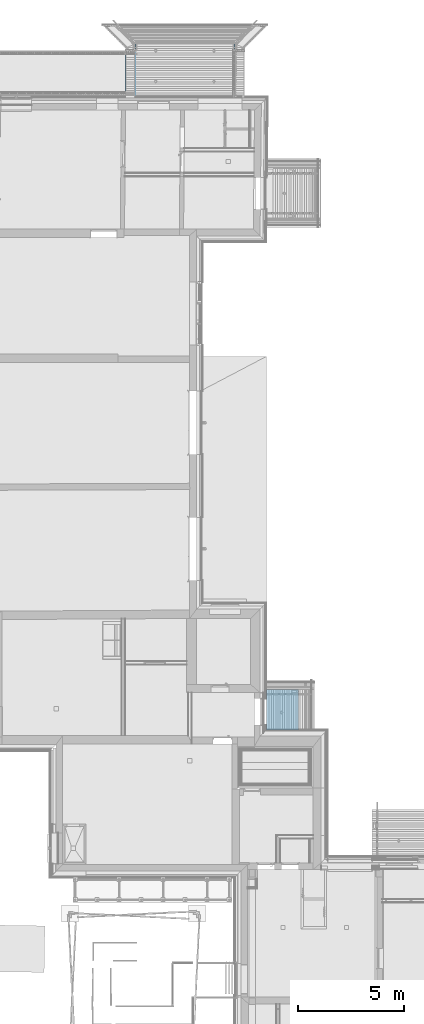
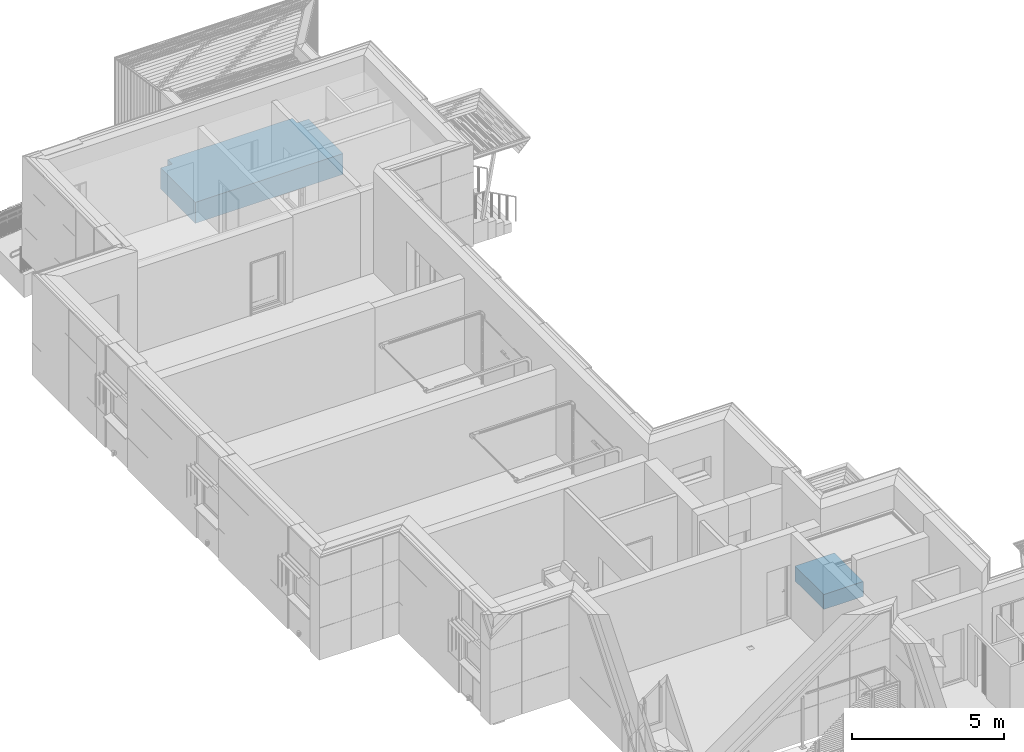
# One storey, part 93 of 418: 2 stairs.
"""IFC2X3 building model written with IfcOpenShell, lengths in millimetres."""

from ifc_helpers import new_model, entity, si_unit, converted_unit, derived_unit, money_unit, direction, frame, origin_with_axes, place, context, subcontext, project, spatial, polyline, outline, extrude, boolean, faceted_brep, material, element, save


model = new_model("IFC2X3")

# Units and contexts
model_context = context("Model", 3, precision=0.01, world=origin_with_axes(), true_north=direction((0.0, 1.0)))
body_context = subcontext(model_context, "Body", "Model", "MODEL_VIEW")
ifc_project = project(units=[si_unit("LENGTHUNIT", "METRE", prefix="MILLI"), si_unit("AREAUNIT", "SQUARE_METRE"), si_unit("VOLUMEUNIT", "CUBIC_METRE"), converted_unit("PLANEANGLEUNIT", "DEGREE", entity("IfcPlaneAngleMeasure", 0.0174532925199), si_unit("PLANEANGLEUNIT", "RADIAN"), dimensions=[0, 0, 0, 0, 0, 0, 0]), si_unit("SOLIDANGLEUNIT", "STERADIAN"), money_unit("EUR"), converted_unit("TIMEUNIT", "Year", entity("IfcTimeMeasure", 31556926.0), si_unit("TIMEUNIT", "SECOND"), dimensions=[0, 0, 1, 0, 0, 0, 0]), si_unit("MASSUNIT", "GRAM", prefix="KILO"), si_unit("THERMODYNAMICTEMPERATUREUNIT", "DEGREE_CELSIUS"), si_unit("LUMINOUSINTENSITYUNIT", "LUMEN"), si_unit("ENERGYUNIT", "JOULE", prefix="MEGA"), derived_unit("THERMALCONDUCTANCEUNIT", [(si_unit("POWERUNIT", "WATT"), 1), (si_unit("LENGTHUNIT", "METRE"), -1), (si_unit("THERMODYNAMICTEMPERATUREUNIT", "KELVIN"), -1)]), derived_unit("SPECIFICHEATCAPACITYUNIT", [(si_unit("ENERGYUNIT", "JOULE"), 1), (si_unit("MASSUNIT", "GRAM", prefix="KILO"), -1), (si_unit("THERMODYNAMICTEMPERATUREUNIT", "KELVIN"), -1)]), derived_unit("MASSDENSITYUNIT", [(si_unit("MASSUNIT", "GRAM", prefix="KILO"), 1), (si_unit("VOLUMEUNIT", "CUBIC_METRE"), -1)])], contexts=[model_context])

# Site, building, storey
site_placement = place(None, origin_with_axes())
site = spatial("IfcSite", under=ifc_project, at=site_placement, Name="Paldiski mnt 245/1, Tallinn, Harjumaa", CompositionType="COMPLEX")
building_placement = place(site_placement, origin_with_axes())
building = spatial("IfcBuilding", under=site, at=building_placement, Name="RKAS Hoone üldnimetus (kasutust iseloomustav) -> IFC Project Manager -> SOLIBRI", CompositionType="ELEMENT")
storey_placement = place(building_placement, origin_with_axes())
storey = spatial("IfcBuildingStorey", under=building, at=storey_placement, Name="Esimene korrus", CompositionType="ELEMENT", Elevation=0.0)

# Stairs
ifc_material = material(Name="KON-06_Raudbetoon - Konstruktsioon")
stair_1_placement = place(storey_placement, frame((-46765.0, 6493.86357598, -20.0), z_axis=(0.0, 0.0, 1.0), x_axis=(1.0, 0.0, 0.0)))
element("IfcStair", 1, at=stair_1_placement, inside=storey, material=ifc_material, Name="Välistrepp", ShapeType="NOTDEFINED", context=body_context, shape_type="CSG", body=[
    boolean("DIFFERENCE", extrude(outline(polyline([(0.0, 0.0), (1507.47425299, 0.0), (1507.47425299, 1899.89132935), (0.0, 1899.89132935), (0.0, 0.0)])), frame((0.0, 0.0, -600.0), z_axis=(0.0, 0.0, 1.0), x_axis=(1.0, 0.0, 0.0)), (0.0, 0.0, 1.0), 600.0), faceted_brep([(454.999996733, 315.965102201, 0.0), (954.999996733, 315.965102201, 0.0), (954.999996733, 1315.9651022, 0.0), (454.999996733, 1315.9651022, 0.0), (454.999996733, 315.965102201, -60.0), (954.999996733, 315.965102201, -60.0), (954.999996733, 1315.9651022, -60.0), (454.999996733, 1315.9651022, -60.0), (700.188124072, 760.965102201, -60.0), (704.999996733, 760.965102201, -60.0), (709.811869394, 760.965102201, -60.0), (719.289419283, 762.636254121, -60.0), (728.332793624, 765.927759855, -60.0), (732.499996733, 768.333704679, -60.0), (736.667199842, 770.739647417, -60.0), (744.039422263, 776.925676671, -60.0), (750.225451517, 784.297899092, -60.0), (752.631394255, 788.465102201, -60.0), (755.037339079, 792.63230531, -60.0), (758.328844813, 801.675679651, -60.0), (759.999996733, 811.15322954, -60.0), (759.999996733, 815.965102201, -60.0), (759.999996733, 820.776974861, -60.0), (758.328844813, 830.25452475, -60.0), (755.037339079, 839.297899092, -60.0), (752.631394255, 843.465102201, -60.0), (750.225451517, 847.63230531, -60.0), (744.039422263, 855.004527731, -60.0), (736.667199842, 861.190556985, -60.0), (732.499996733, 863.596499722, -60.0), (728.332793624, 866.002444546, -60.0), (719.289419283, 869.29395028, -60.0), (709.811869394, 870.965102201, -60.0), (704.999996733, 870.965102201, -60.0), (700.188124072, 870.965102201, -60.0), (690.710574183, 869.29395028, -60.0), (681.667199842, 866.002444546, -60.0), (677.499996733, 863.596499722, -60.0), (673.332793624, 861.190556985, -60.0), (665.960571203, 855.004527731, -60.0), (659.774541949, 847.63230531, -60.0), (657.368599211, 843.465102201, -60.0), (654.962654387, 839.297899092, -60.0), (651.671148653, 830.25452475, -60.0), (649.999996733, 820.776974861, -60.0), (649.999996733, 815.965102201, -60.0), (649.999996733, 811.15322954, -60.0), (651.671148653, 801.675679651, -60.0), (654.962654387, 792.63230531, -60.0), (657.368599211, 788.465102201, -60.0), (659.774541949, 784.297899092, -60.0), (665.960571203, 776.925676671, -60.0), (673.332793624, 770.739647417, -60.0), (677.499996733, 768.333704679, -60.0), (681.667199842, 765.927759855, -60.0), (690.710574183, 762.636254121, -60.0), (700.188124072, 760.965102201, -20.0), (704.999996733, 760.965102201, -20.0), (704.999996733, 760.965102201, -20.0), (709.811869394, 760.965102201, -20.0), (719.289419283, 762.636254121, -20.0), (728.332793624, 765.927759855, -20.0), (732.499996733, 768.333704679, -20.0), (732.499996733, 768.333704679, -20.0), (736.667199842, 770.739647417, -20.0), (744.039422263, 776.925676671, -20.0), (750.225451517, 784.297899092, -20.0), (752.631394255, 788.465102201, -20.0), (752.631394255, 788.465102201, -20.0), (755.037339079, 792.63230531, -20.0), (758.328844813, 801.675679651, -20.0), (759.999996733, 811.15322954, -20.0), (759.999996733, 815.965102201, -20.0), (759.999996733, 815.965102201, -20.0), (759.999996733, 820.776974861, -20.0), (758.328844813, 830.25452475, -20.0), (755.037339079, 839.297899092, -20.0), (752.631394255, 843.465102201, -20.0), (752.631394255, 843.465102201, -20.0), (750.225451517, 847.63230531, -20.0), (744.039422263, 855.004527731, -20.0), (736.667199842, 861.190556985, -20.0), (732.499996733, 863.596499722, -20.0), (732.499996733, 863.596499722, -20.0), (728.332793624, 866.002444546, -20.0), (719.289419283, 869.29395028, -20.0), (709.811869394, 870.965102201, -20.0), (704.999996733, 870.965102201, -20.0), (704.999996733, 870.965102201, -20.0), (700.188124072, 870.965102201, -20.0), (690.710574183, 869.29395028, -20.0), (681.667199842, 866.002444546, -20.0), (677.499996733, 863.596499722, -20.0), (677.499996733, 863.596499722, -20.0), (673.332793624, 861.190556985, -20.0), (665.960571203, 855.004527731, -20.0), (659.774541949, 847.63230531, -20.0), (657.368599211, 843.465102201, -20.0), (657.368599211, 843.465102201, -20.0), (654.962654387, 839.297899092, -20.0), (651.671148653, 830.25452475, -20.0), (649.999996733, 820.776974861, -20.0), (649.999996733, 815.965102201, -20.0), (649.999996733, 815.965102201, -20.0), (649.999996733, 811.15322954, -20.0), (651.671148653, 801.675679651, -20.0), (654.962654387, 792.63230531, -20.0), (657.368599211, 788.465102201, -20.0), (657.368599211, 788.465102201, -20.0), (659.774541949, 784.297899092, -20.0), (665.960571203, 776.925676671, -20.0), (673.332793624, 770.739647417, -20.0), (677.499996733, 768.333704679, -20.0), (677.499996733, 768.333704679, -20.0), (681.667199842, 765.927759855, -20.0), (690.710574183, 762.636254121, -20.0), (690.76494887, 762.83918101, -20.0), (690.76494887, 762.83918101, -300.0), (704.999996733, 760.965102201, -300.0), (719.235044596, 762.83918101, -20.0), (719.235044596, 762.83918101, -300.0), (732.499996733, 768.333704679, -300.0), (743.890870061, 777.074228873, -300.0), (743.890870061, 777.074228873, -20.0), (752.631394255, 788.465102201, -300.0), (758.125917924, 801.730054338, -300.0), (758.125917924, 801.730054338, -20.0), (759.999996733, 815.965102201, -300.0), (758.125917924, 830.200150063, -300.0), (758.125917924, 830.200150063, -20.0), (752.631394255, 843.465102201, -300.0), (743.890870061, 854.855975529, -300.0), (743.890870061, 854.855975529, -20.0), (732.499996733, 863.596499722, -300.0), (719.235044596, 869.091023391, -300.0), (719.235044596, 869.091023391, -20.0), (704.999996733, 870.965102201, -300.0), (690.76494887, 869.091023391, -300.0), (690.76494887, 869.091023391, -20.0), (677.499996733, 863.596499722, -300.0), (666.109123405, 854.855975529, -300.0), (666.109123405, 854.855975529, -20.0), (657.368599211, 843.465102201, -300.0), (651.874075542, 830.200150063, -300.0), (651.874075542, 830.200150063, -20.0), (649.999996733, 815.965102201, -300.0), (651.874075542, 801.730054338, -300.0), (651.874075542, 801.730054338, -20.0), (657.368599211, 788.465102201, -300.0), (666.109123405, 777.074228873, -300.0), (666.109123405, 777.074228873, -20.0), (677.499996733, 768.333704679, -300.0), (692.059044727, 767.66881155, -300.0), (704.999996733, 765.965102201, -300.0), (717.940948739, 767.66881155, -300.0), (729.999996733, 772.663831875, -300.0), (740.355335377, 780.609763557, -300.0), (748.301267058, 790.965102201, -300.0), (753.296287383, 803.024150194, -300.0), (754.999996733, 815.965102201, -300.0), (753.296287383, 828.906054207, -300.0), (748.301267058, 840.965102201, -300.0), (740.355335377, 851.320440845, -300.0), (729.999996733, 859.266372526, -300.0), (717.940948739, 864.261392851, -300.0), (704.999996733, 865.965102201, -300.0), (692.059044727, 864.261392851, -300.0), (679.999996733, 859.266372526, -300.0), (669.644658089, 851.320440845, -300.0), (661.698726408, 840.965102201, -300.0), (656.703706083, 828.906054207, -300.0), (654.999996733, 815.965102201, -300.0), (656.703706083, 803.024150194, -300.0), (661.698726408, 790.965102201, -300.0), (669.644658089, 780.609763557, -300.0), (679.999996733, 772.663831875, -300.0), (692.059044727, 767.66881155, -20.0), (704.999996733, 765.965102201, -20.0), (717.940948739, 767.66881155, -20.0), (729.999996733, 772.663831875, -20.0), (740.355335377, 780.609763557, -20.0), (748.301267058, 790.965102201, -20.0), (753.296287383, 803.024150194, -20.0), (754.999996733, 815.965102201, -20.0), (753.296287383, 828.906054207, -20.0), (748.301267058, 840.965102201, -20.0), (740.355335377, 851.320440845, -20.0), (729.999996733, 859.266372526, -20.0), (717.940948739, 864.261392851, -20.0), (704.999996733, 865.965102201, -20.0), (692.059044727, 864.261392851, -20.0), (679.999996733, 859.266372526, -20.0), (669.644658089, 851.320440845, -20.0), (661.698726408, 840.965102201, -20.0), (656.703706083, 828.906054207, -20.0), (654.999996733, 815.965102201, -20.0), (656.703706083, 803.024150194, -20.0), (661.698726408, 790.965102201, -20.0), (669.644658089, 780.609763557, -20.0), (679.999996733, 772.663831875, -20.0)], [[[0, 1, 2, 3]], [[1, 0, 4, 5]], [[2, 1, 5, 6]], [[3, 2, 6, 7]], [[0, 3, 7, 4]], [[5, 4, 7, 6], [8, 9, 10, 11, 12, 13, 14, 15, 16, 17, 18, 19, 20, 21, 22, 23, 24, 25, 26, 27, 28, 29, 30, 31, 32, 33, 34, 35, 36, 37, 38, 39, 40, 41, 42, 43, 44, 45, 46, 47, 48, 49, 50, 51, 52, 53, 54, 55]], [[9, 8, 56, 57]], [[10, 9, 58, 59]], [[11, 10, 59, 60]], [[12, 11, 60, 61]], [[13, 12, 61, 62]], [[14, 13, 63, 64]], [[15, 14, 64, 65]], [[16, 15, 65, 66]], [[17, 16, 66, 67]], [[18, 17, 68, 69]], [[19, 18, 69, 70]], [[20, 19, 70, 71]], [[21, 20, 71, 72]], [[22, 21, 73, 74]], [[23, 22, 74, 75]], [[24, 23, 75, 76]], [[25, 24, 76, 77]], [[26, 25, 78, 79]], [[27, 26, 79, 80]], [[28, 27, 80, 81]], [[29, 28, 81, 82]], [[30, 29, 83, 84]], [[31, 30, 84, 85]], [[32, 31, 85, 86]], [[33, 32, 86, 87]], [[34, 33, 88, 89]], [[35, 34, 89, 90]], [[36, 35, 90, 91]], [[37, 36, 91, 92]], [[38, 37, 93, 94]], [[39, 38, 94, 95]], [[40, 39, 95, 96]], [[41, 40, 96, 97]], [[42, 41, 98, 99]], [[43, 42, 99, 100]], [[44, 43, 100, 101]], [[45, 44, 101, 102]], [[46, 45, 103, 104]], [[47, 46, 104, 105]], [[48, 47, 105, 106]], [[49, 48, 106, 107]], [[50, 49, 108, 109]], [[51, 50, 109, 110]], [[52, 51, 110, 111]], [[53, 52, 111, 112]], [[54, 53, 113, 114]], [[55, 54, 114, 115]], [[8, 55, 115, 56]], [[57, 56, 115, 114, 113, 116]], [[57, 116, 117, 118, 9]], [[119, 58, 9, 118, 120]], [[60, 59, 58, 119, 62, 61]], [[62, 119, 120, 121, 13]], [[121, 122, 123, 63, 13]], [[63, 123, 67, 66, 65, 64]], [[122, 124, 17, 67, 123]], [[124, 125, 126, 68, 17]], [[69, 68, 126, 72, 71, 70]], [[125, 127, 21, 72, 126]], [[127, 128, 129, 73, 21]], [[73, 129, 77, 76, 75, 74]], [[128, 130, 25, 77, 129]], [[130, 131, 132, 78, 25]], [[78, 132, 82, 81, 80, 79]], [[131, 133, 29, 82, 132]], [[133, 134, 135, 83, 29]], [[83, 135, 87, 86, 85, 84]], [[134, 136, 33, 87, 135]], [[136, 137, 138, 88, 33]], [[138, 92, 91, 90, 89, 88]], [[137, 139, 37, 92, 138]], [[139, 140, 141, 93, 37]], [[97, 96, 95, 94, 93, 141]], [[140, 142, 41, 97, 141]], [[142, 143, 144, 98, 41]], [[102, 101, 100, 99, 98, 144]], [[143, 145, 45, 102, 144]], [[145, 146, 147, 103, 45]], [[147, 107, 106, 105, 104, 103]], [[146, 148, 49, 107, 147]], [[148, 149, 150, 108, 49]], [[112, 111, 110, 109, 108, 150]], [[149, 151, 53, 112, 150]], [[116, 113, 53, 151, 117]], [[120, 118, 117, 151, 149, 148, 146, 145, 143, 142, 140, 139, 137, 136, 134, 133, 131, 130, 128, 127, 125, 124, 122, 121], [152, 153, 154, 155, 156, 157, 158, 159, 160, 161, 162, 163, 164, 165, 166, 167, 168, 169, 170, 171, 172, 173, 174, 175]], [[153, 152, 176, 177]], [[154, 153, 177, 178]], [[155, 154, 178, 179]], [[156, 155, 179, 180]], [[157, 156, 180, 181]], [[158, 157, 181, 182]], [[159, 158, 182, 183]], [[160, 159, 183, 184]], [[161, 160, 184, 185]], [[162, 161, 185, 186]], [[163, 162, 186, 187]], [[164, 163, 187, 188]], [[165, 164, 188, 189]], [[166, 165, 189, 190]], [[167, 166, 190, 191]], [[168, 167, 191, 192]], [[169, 168, 192, 193]], [[170, 169, 193, 194]], [[171, 170, 194, 195]], [[172, 171, 195, 196]], [[173, 172, 196, 197]], [[174, 173, 197, 198]], [[175, 174, 198, 199]], [[152, 175, 199, 176]], [[177, 176, 199, 198, 197, 196, 195, 194, 193, 192, 191, 190, 189, 188, 187, 186, 185, 184, 183, 182, 181, 180, 179, 178]]])),
])
stair_2_placement = place(storey_placement, frame((-47803.2841289, 36300.8635332, -20.0), z_axis=(0.0, 0.0, 1.0), x_axis=(1.0, 0.0, 0.0)))
element("IfcStair", 2, at=stair_2_placement, inside=storey, material=ifc_material, Name="Välistrepp", ShapeType="NOTDEFINED", context=body_context, shape_type="CSG", body=[
    boolean("DIFFERENCE", extrude(outline(polyline([(0.0, 0.0), (-1.70765090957e-05, 2283.81928156), (-441.99993081, 2283.81928204), (-442.000958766, 2587.76959752), (-5174.64561329, 2587.7696692), (-5174.64561784, 2287.76967855), (-5616.48519029, 2287.76968122), (-5616.48515986, 7.48256923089e-05), (0.0, 0.0)])), frame((0.0, 0.0, -840.0), z_axis=(0.0, 0.0, 1.0), x_axis=(1.0, 0.0, 0.0)), (0.0, 0.0, 1.0), 840.0), faceted_brep([(-4695.83678079, 568.965191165, 0.0), (-3695.83678079, 568.965191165, 0.0), (-3695.83678079, 1068.96519116, 0.0), (-4695.83678079, 1068.96519116, 0.0), (-4695.83678079, 568.965191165, -60.0), (-3695.83678079, 568.965191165, -60.0), (-3695.83678079, 1068.96519116, -60.0), (-4695.83678079, 1068.96519116, -60.0), (-4250.83678079, 823.777063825, -60.0), (-4250.83678079, 818.965191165, -60.0), (-4250.83678079, 814.153318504, -60.0), (-4249.16562887, 804.675768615, -60.0), (-4245.87412313, 795.632394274, -60.0), (-4243.46817831, 791.465191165, -60.0), (-4241.06223557, 787.297988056, -60.0), (-4234.87620632, 779.925765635, -60.0), (-4227.5039839, 773.739736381, -60.0), (-4223.33678079, 771.333793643, -60.0), (-4219.16957768, 768.927848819, -60.0), (-4210.12620334, 765.636343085, -60.0), (-4200.64865345, 763.965191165, -60.0), (-4195.83678079, 763.965191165, -60.0), (-4191.02490813, 763.965191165, -60.0), (-4181.54735824, 765.636343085, -60.0), (-4172.5039839, 768.927848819, -60.0), (-4168.33678079, 771.333793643, -60.0), (-4164.16957768, 773.739736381, -60.0), (-4156.79735526, 779.925765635, -60.0), (-4150.611326, 787.297988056, -60.0), (-4148.20538327, 791.465191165, -60.0), (-4145.79943844, 795.632394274, -60.0), (-4142.50793271, 804.675768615, -60.0), (-4140.83678079, 814.153318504, -60.0), (-4140.83678079, 818.965191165, -60.0), (-4140.83678079, 823.777063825, -60.0), (-4142.50793271, 833.254613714, -60.0), (-4145.79943844, 842.297988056, -60.0), (-4148.20538327, 846.465191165, -60.0), (-4150.611326, 850.632394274, -60.0), (-4156.79735526, 858.004616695, -60.0), (-4164.16957768, 864.190645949, -60.0), (-4168.33678079, 866.596588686, -60.0), (-4172.5039839, 869.00253351, -60.0), (-4181.54735824, 872.294039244, -60.0), (-4191.02490813, 873.965191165, -60.0), (-4195.83678079, 873.965191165, -60.0), (-4200.64865345, 873.965191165, -60.0), (-4210.12620334, 872.294039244, -60.0), (-4219.16957768, 869.00253351, -60.0), (-4223.33678079, 866.596588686, -60.0), (-4227.5039839, 864.190645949, -60.0), (-4234.87620632, 858.004616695, -60.0), (-4241.06223557, 850.632394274, -60.0), (-4243.46817831, 846.465191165, -60.0), (-4245.87412313, 842.297988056, -60.0), (-4249.16562887, 833.254613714, -60.0), (-4250.83678079, 823.777063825, -20.0), (-4250.83678079, 818.965191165, -20.0), (-4250.83678079, 818.965191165, -20.0), (-4250.83678079, 814.153318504, -20.0), (-4249.16562887, 804.675768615, -20.0), (-4245.87412313, 795.632394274, -20.0), (-4243.46817831, 791.465191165, -20.0), (-4243.46817831, 791.465191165, -20.0), (-4241.06223557, 787.297988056, -20.0), (-4234.87620632, 779.925765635, -20.0), (-4227.5039839, 773.739736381, -20.0), (-4223.33678079, 771.333793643, -20.0), (-4223.33678079, 771.333793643, -20.0), (-4219.16957768, 768.927848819, -20.0), (-4210.12620334, 765.636343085, -20.0), (-4200.64865345, 763.965191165, -20.0), (-4195.83678079, 763.965191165, -20.0), (-4195.83678079, 763.965191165, -20.0), (-4191.02490813, 763.965191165, -20.0), (-4181.54735824, 765.636343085, -20.0), (-4172.5039839, 768.927848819, -20.0), (-4168.33678079, 771.333793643, -20.0), (-4168.33678079, 771.333793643, -20.0), (-4164.16957768, 773.739736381, -20.0), (-4156.79735526, 779.925765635, -20.0), (-4150.611326, 787.297988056, -20.0), (-4148.20538327, 791.465191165, -20.0), (-4148.20538327, 791.465191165, -20.0), (-4145.79943844, 795.632394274, -20.0), (-4142.50793271, 804.675768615, -20.0), (-4140.83678079, 814.153318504, -20.0), (-4140.83678079, 818.965191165, -20.0), (-4140.83678079, 818.965191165, -20.0), (-4140.83678079, 823.777063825, -20.0), (-4142.50793271, 833.254613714, -20.0), (-4145.79943844, 842.297988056, -20.0), (-4148.20538327, 846.465191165, -20.0), (-4148.20538327, 846.465191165, -20.0), (-4150.611326, 850.632394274, -20.0), (-4156.79735526, 858.004616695, -20.0), (-4164.16957768, 864.190645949, -20.0), (-4168.33678079, 866.596588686, -20.0), (-4168.33678079, 866.596588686, -20.0), (-4172.5039839, 869.00253351, -20.0), (-4181.54735824, 872.294039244, -20.0), (-4191.02490813, 873.965191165, -20.0), (-4195.83678079, 873.965191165, -20.0), (-4195.83678079, 873.965191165, -20.0), (-4200.64865345, 873.965191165, -20.0), (-4210.12620334, 872.294039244, -20.0), (-4219.16957768, 869.00253351, -20.0), (-4223.33678079, 866.596588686, -20.0), (-4223.33678079, 866.596588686, -20.0), (-4227.5039839, 864.190645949, -20.0), (-4234.87620632, 858.004616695, -20.0), (-4241.06223557, 850.632394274, -20.0), (-4243.46817831, 846.465191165, -20.0), (-4243.46817831, 846.465191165, -20.0), (-4245.87412313, 842.297988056, -20.0), (-4249.16562887, 833.254613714, -20.0), (-4248.96270198, 833.200239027, -20.0), (-4248.96270198, 833.200239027, -300.0), (-4250.83678079, 818.965191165, -300.0), (-4248.96270198, 804.730143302, -20.0), (-4248.96270198, 804.730143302, -300.0), (-4243.46817831, 791.465191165, -300.0), (-4234.72765412, 780.074317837, -300.0), (-4234.72765412, 780.074317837, -20.0), (-4223.33678079, 771.333793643, -300.0), (-4210.07182865, 765.839269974, -300.0), (-4210.07182865, 765.839269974, -20.0), (-4195.83678079, 763.965191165, -300.0), (-4181.60173293, 765.839269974, -300.0), (-4181.60173293, 765.839269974, -20.0), (-4168.33678079, 771.333793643, -300.0), (-4156.94590746, 780.074317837, -300.0), (-4156.94590746, 780.074317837, -20.0), (-4148.20538327, 791.465191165, -300.0), (-4142.7108596, 804.730143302, -300.0), (-4142.7108596, 804.730143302, -20.0), (-4140.83678079, 818.965191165, -300.0), (-4142.7108596, 833.200239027, -300.0), (-4142.7108596, 833.200239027, -20.0), (-4148.20538327, 846.465191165, -300.0), (-4156.94590746, 857.856064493, -300.0), (-4156.94590746, 857.856064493, -20.0), (-4168.33678079, 866.596588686, -300.0), (-4181.60173293, 872.091112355, -300.0), (-4181.60173293, 872.091112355, -20.0), (-4195.83678079, 873.965191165, -300.0), (-4210.07182865, 872.091112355, -300.0), (-4210.07182865, 872.091112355, -20.0), (-4223.33678079, 866.596588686, -300.0), (-4234.72765412, 857.856064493, -300.0), (-4234.72765412, 857.856064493, -20.0), (-4243.46817831, 846.465191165, -300.0), (-4244.13307144, 831.906143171, -300.0), (-4245.83678079, 818.965191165, -300.0), (-4244.13307144, 806.024239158, -300.0), (-4239.13805111, 793.965191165, -300.0), (-4231.19211943, 783.609852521, -300.0), (-4220.83678079, 775.66392084, -300.0), (-4208.77773279, 770.668900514, -300.0), (-4195.83678079, 768.965191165, -300.0), (-4182.89582878, 770.668900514, -300.0), (-4170.83678079, 775.66392084, -300.0), (-4160.48144214, 783.609852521, -300.0), (-4152.53551046, 793.965191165, -300.0), (-4147.54049014, 806.024239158, -300.0), (-4145.83678079, 818.965191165, -300.0), (-4147.54049014, 831.906143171, -300.0), (-4152.53551046, 843.965191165, -300.0), (-4160.48144214, 854.320529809, -300.0), (-4170.83678079, 862.26646149, -300.0), (-4182.89582878, 867.261481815, -300.0), (-4195.83678079, 868.965191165, -300.0), (-4208.77773279, 867.261481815, -300.0), (-4220.83678079, 862.26646149, -300.0), (-4231.19211943, 854.320529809, -300.0), (-4239.13805111, 843.965191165, -300.0), (-4244.13307144, 831.906143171, -20.0), (-4245.83678079, 818.965191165, -20.0), (-4244.13307144, 806.024239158, -20.0), (-4239.13805111, 793.965191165, -20.0), (-4231.19211943, 783.609852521, -20.0), (-4220.83678079, 775.66392084, -20.0), (-4208.77773279, 770.668900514, -20.0), (-4195.83678079, 768.965191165, -20.0), (-4182.89582878, 770.668900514, -20.0), (-4170.83678079, 775.66392084, -20.0), (-4160.48144214, 783.609852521, -20.0), (-4152.53551046, 793.965191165, -20.0), (-4147.54049014, 806.024239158, -20.0), (-4145.83678079, 818.965191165, -20.0), (-4147.54049014, 831.906143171, -20.0), (-4152.53551046, 843.965191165, -20.0), (-4160.48144214, 854.320529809, -20.0), (-4170.83678079, 862.26646149, -20.0), (-4182.89582878, 867.261481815, -20.0), (-4195.83678079, 868.965191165, -20.0), (-4208.77773279, 867.261481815, -20.0), (-4220.83678079, 862.26646149, -20.0), (-4231.19211943, 854.320529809, -20.0), (-4239.13805111, 843.965191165, -20.0)], [[[0, 1, 2, 3]], [[1, 0, 4, 5]], [[2, 1, 5, 6]], [[3, 2, 6, 7]], [[0, 3, 7, 4]], [[4, 7, 6, 5], [8, 9, 10, 11, 12, 13, 14, 15, 16, 17, 18, 19, 20, 21, 22, 23, 24, 25, 26, 27, 28, 29, 30, 31, 32, 33, 34, 35, 36, 37, 38, 39, 40, 41, 42, 43, 44, 45, 46, 47, 48, 49, 50, 51, 52, 53, 54, 55]], [[9, 8, 56, 57]], [[10, 9, 58, 59]], [[11, 10, 59, 60]], [[12, 11, 60, 61]], [[13, 12, 61, 62]], [[14, 13, 63, 64]], [[15, 14, 64, 65]], [[16, 15, 65, 66]], [[17, 16, 66, 67]], [[18, 17, 68, 69]], [[19, 18, 69, 70]], [[20, 19, 70, 71]], [[21, 20, 71, 72]], [[22, 21, 73, 74]], [[23, 22, 74, 75]], [[24, 23, 75, 76]], [[25, 24, 76, 77]], [[26, 25, 78, 79]], [[27, 26, 79, 80]], [[28, 27, 80, 81]], [[29, 28, 81, 82]], [[30, 29, 83, 84]], [[31, 30, 84, 85]], [[32, 31, 85, 86]], [[33, 32, 86, 87]], [[34, 33, 88, 89]], [[35, 34, 89, 90]], [[36, 35, 90, 91]], [[37, 36, 91, 92]], [[38, 37, 93, 94]], [[39, 38, 94, 95]], [[40, 39, 95, 96]], [[41, 40, 96, 97]], [[42, 41, 98, 99]], [[43, 42, 99, 100]], [[44, 43, 100, 101]], [[45, 44, 101, 102]], [[46, 45, 103, 104]], [[47, 46, 104, 105]], [[48, 47, 105, 106]], [[49, 48, 106, 107]], [[50, 49, 108, 109]], [[51, 50, 109, 110]], [[52, 51, 110, 111]], [[53, 52, 111, 112]], [[54, 53, 113, 114]], [[55, 54, 114, 115]], [[8, 55, 115, 56]], [[57, 56, 115, 114, 113, 116]], [[57, 116, 117, 118, 9]], [[119, 58, 9, 118, 120]], [[60, 59, 58, 119, 62, 61]], [[62, 119, 120, 121, 13]], [[121, 122, 123, 63, 13]], [[63, 123, 67, 66, 65, 64]], [[122, 124, 17, 67, 123]], [[124, 125, 126, 68, 17]], [[69, 68, 126, 72, 71, 70]], [[125, 127, 21, 72, 126]], [[127, 128, 129, 73, 21]], [[73, 129, 77, 76, 75, 74]], [[128, 130, 25, 77, 129]], [[130, 131, 132, 78, 25]], [[78, 132, 82, 81, 80, 79]], [[131, 133, 29, 82, 132]], [[133, 134, 135, 83, 29]], [[83, 135, 87, 86, 85, 84]], [[134, 136, 33, 87, 135]], [[136, 137, 138, 88, 33]], [[138, 92, 91, 90, 89, 88]], [[137, 139, 37, 92, 138]], [[139, 140, 141, 93, 37]], [[97, 96, 95, 94, 93, 141]], [[140, 142, 41, 97, 141]], [[142, 143, 144, 98, 41]], [[102, 101, 100, 99, 98, 144]], [[143, 145, 45, 102, 144]], [[145, 146, 147, 103, 45]], [[147, 107, 106, 105, 104, 103]], [[146, 148, 49, 107, 147]], [[148, 149, 150, 108, 49]], [[112, 111, 110, 109, 108, 150]], [[149, 151, 53, 112, 150]], [[116, 113, 53, 151, 117]], [[120, 118, 117, 151, 149, 148, 146, 145, 143, 142, 140, 139, 137, 136, 134, 133, 131, 130, 128, 127, 125, 124, 122, 121], [152, 153, 154, 155, 156, 157, 158, 159, 160, 161, 162, 163, 164, 165, 166, 167, 168, 169, 170, 171, 172, 173, 174, 175]], [[153, 152, 176, 177]], [[154, 153, 177, 178]], [[155, 154, 178, 179]], [[156, 155, 179, 180]], [[157, 156, 180, 181]], [[158, 157, 181, 182]], [[159, 158, 182, 183]], [[160, 159, 183, 184]], [[161, 160, 184, 185]], [[162, 161, 185, 186]], [[163, 162, 186, 187]], [[164, 163, 187, 188]], [[165, 164, 188, 189]], [[166, 165, 189, 190]], [[167, 166, 190, 191]], [[168, 167, 191, 192]], [[169, 168, 192, 193]], [[170, 169, 193, 194]], [[171, 170, 194, 195]], [[172, 171, 195, 196]], [[173, 172, 196, 197]], [[174, 173, 197, 198]], [[175, 174, 198, 199]], [[152, 175, 199, 176]], [[177, 176, 199, 198, 197, 196, 195, 194, 193, 192, 191, 190, 189, 188, 187, 186, 185, 184, 183, 182, 181, 180, 179, 178]]])),
])

save(model, "model.ifc")
